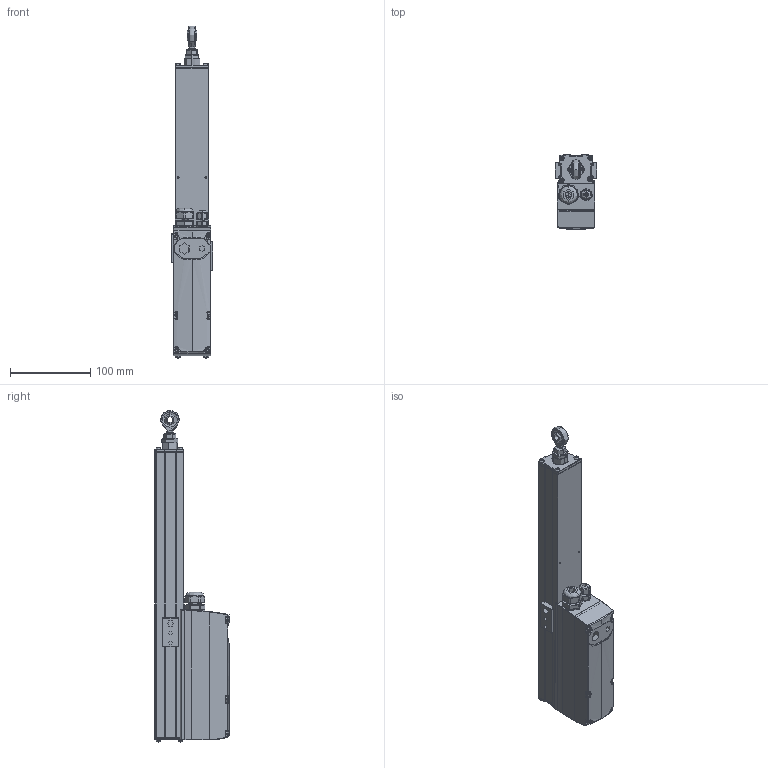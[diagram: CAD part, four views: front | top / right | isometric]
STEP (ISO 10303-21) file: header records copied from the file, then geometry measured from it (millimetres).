
FILE_DESCRIPTION (( 'STEP AP203' ), '1' );
FILE_NAME ('3D_VN1.STEP', '2019-05-08T11:05:52', ( '' ), ( '' ), 'SwSTEP 2.0', 'SolidWorks 2015', '' );
FILE_SCHEMA (( 'CONFIG_CONTROL_DESIGN' ));
Length unit declared in the file: millimetre
Products named in the file (52): 33903-068-16-圓頭十字螺絲; VN1_Clamp Block; 三維零件圖-33903-019-20-自攻螺絲; 三維零件圖-31605-895外殼上蓋-0 最短版; 鋁內管; 三維零件圖-31605-896-外殼下蓋-0 - 最短版; 加工上端_默_; 三維零件圖-31501-127-齒輪箱底蓋-0; 電纜接頭-全冠MG16A-10-ST; 電纜接頭-全冠MGB10-06-ST; 三維零件圖-32209-7101-L-外管-0; 三維零件圖-軟木橡膠-0000; 三維零件圖-油封-0; 三維零件圖-31802-113-萬向接頭-0; 三維零件圖-33101-007-防擺環-0; 三維零件圖-33105-080-防擺套-0; 3D_VN1; 三?零件?-10102-003013-11-公制螺?-A; 加工上端; M8-螺母
Assembly tree (53 placements, depth 2):
  VN1_Clamp Block
  三維零件圖-31605-895外殼上蓋-0 最短版
  VN1_Clamp Block
  三維零件圖-31605-896-外殼下蓋-0 - 最短版
  三維零件圖-31501-127-齒輪箱底蓋-0
Bounding box: 52 x 92.83 x 413.59 mm (x, y, z)
Volume: 275934.5 mm3; surface area: 281595.3 mm2
Topology: 32 solids, 32 shells, 5236 faces, 13692 edges, 8582 vertices
Faces by surface type: cylinder 2260, plane 1280, bspline 860, torus 478, cone 201, sphere 157
Entity records: 193675 total; most frequent: CARTESIAN_POINT 102521, ORIENTED_EDGE 19398, DIRECTION 16089, EDGE_CURVE 9699, VERTEX_POINT 6065, AXIS2_PLACEMENT_3D 6045, EDGE_LOOP 4062, LINE 3999
